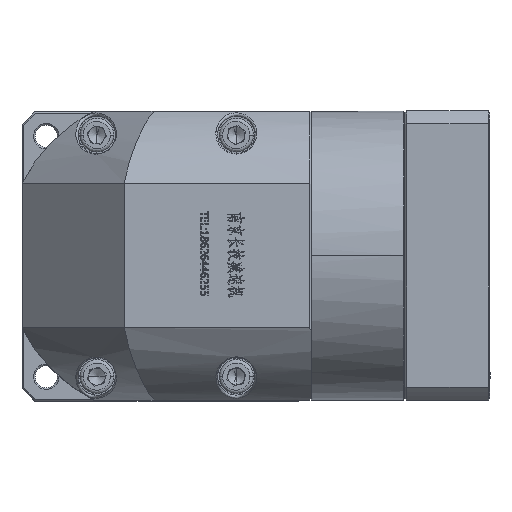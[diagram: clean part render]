
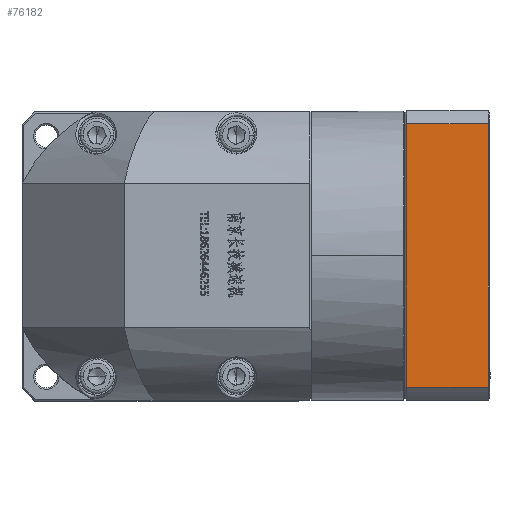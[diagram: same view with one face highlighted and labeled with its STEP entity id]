
A CAD part, top view. The second image highlights one B-rep face of the part: STEP entity #76182.
In plain terms, the highlighted planar face has unit normal (0, 0, 1).
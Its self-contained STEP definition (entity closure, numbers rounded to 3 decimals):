
#479 = PLANE ( 'NONE',  #151088 ) ;
#5944 = CARTESIAN_POINT ( 'NONE',  ( -79.001, 106.492, 47.486 ) ) ;
#11969 = VERTEX_POINT ( 'NONE', #176006 ) ;
#15398 = CARTESIAN_POINT ( 'NONE',  ( 110.26, 102.722, 47.486 ) ) ;
#16361 = FACE_OUTER_BOUND ( 'NONE', #45762, .T. ) ;
#20317 = DIRECTION ( 'NONE',  ( -1., 0., 0. ) ) ;
#23804 = CARTESIAN_POINT ( 'NONE',  ( 85.76, 183.952, 47.486 ) ) ;
#29138 = DIRECTION ( 'NONE',  ( 0., 1., 0. ) ) ;
#29882 = VECTOR ( 'NONE', #74993, 1000. ) ;
#32103 = DIRECTION ( 'NONE',  ( 1., 0., 0. ) ) ;
#33772 = VERTEX_POINT ( 'NONE', #23804 ) ;
#45762 = EDGE_LOOP ( 'NONE', ( #168569, #52640, #153490, #174770 ) ) ;
#52032 = VECTOR ( 'NONE', #32103, 1000. ) ;
#52640 = ORIENTED_EDGE ( 'NONE', *, *, #95336, .F. ) ;
#54717 = LINE ( 'NONE', #5944, #159856 ) ;
#63342 = VECTOR ( 'NONE', #170576, 1000. ) ;
#70842 = EDGE_CURVE ( 'NONE', #84337, #11969, #104196, .T. ) ;
#72996 = CARTESIAN_POINT ( 'NONE',  ( 110.26, 183.952, 47.486 ) ) ;
#74993 = DIRECTION ( 'NONE',  ( 0., -1., 0. ) ) ;
#76182 = ADVANCED_FACE ( 'NONE', ( #16361 ), #479, .F. ) ;
#84337 = VERTEX_POINT ( 'NONE', #169440 ) ;
#88525 = LINE ( 'NONE', #72996, #52032 ) ;
#88795 = CARTESIAN_POINT ( 'NONE',  ( 85.76, 102.722, 47.486 ) ) ;
#95336 = EDGE_CURVE ( 'NONE', #11969, #120257, #54717, .T. ) ;
#104196 = LINE ( 'NONE', #143037, #63342 ) ;
#111400 = DIRECTION ( 'NONE',  ( 0., 0., -1. ) ) ;
#120257 = VERTEX_POINT ( 'NONE', #139969 ) ;
#131568 = EDGE_CURVE ( 'NONE', #33772, #84337, #88525, .T. ) ;
#139969 = CARTESIAN_POINT ( 'NONE',  ( 85.76, 106.492, 47.486 ) ) ;
#143037 = CARTESIAN_POINT ( 'NONE',  ( 109.76, 102.722, 47.486 ) ) ;
#151088 = AXIS2_PLACEMENT_3D ( 'NONE', #15398, #111400, #29138 ) ;
#153490 = ORIENTED_EDGE ( 'NONE', *, *, #70842, .F. ) ;
#159856 = VECTOR ( 'NONE', #20317, 1000. ) ;
#168569 = ORIENTED_EDGE ( 'NONE', *, *, #171391, .T. ) ;
#169440 = CARTESIAN_POINT ( 'NONE',  ( 109.76, 183.952, 47.486 ) ) ;
#170576 = DIRECTION ( 'NONE',  ( 0., -1., 0. ) ) ;
#171391 = EDGE_CURVE ( 'NONE', #33772, #120257, #171531, .T. ) ;
#171531 = LINE ( 'NONE', #88795, #29882 ) ;
#174770 = ORIENTED_EDGE ( 'NONE', *, *, #131568, .F. ) ;
#176006 = CARTESIAN_POINT ( 'NONE',  ( 109.76, 106.492, 47.486 ) ) ;
